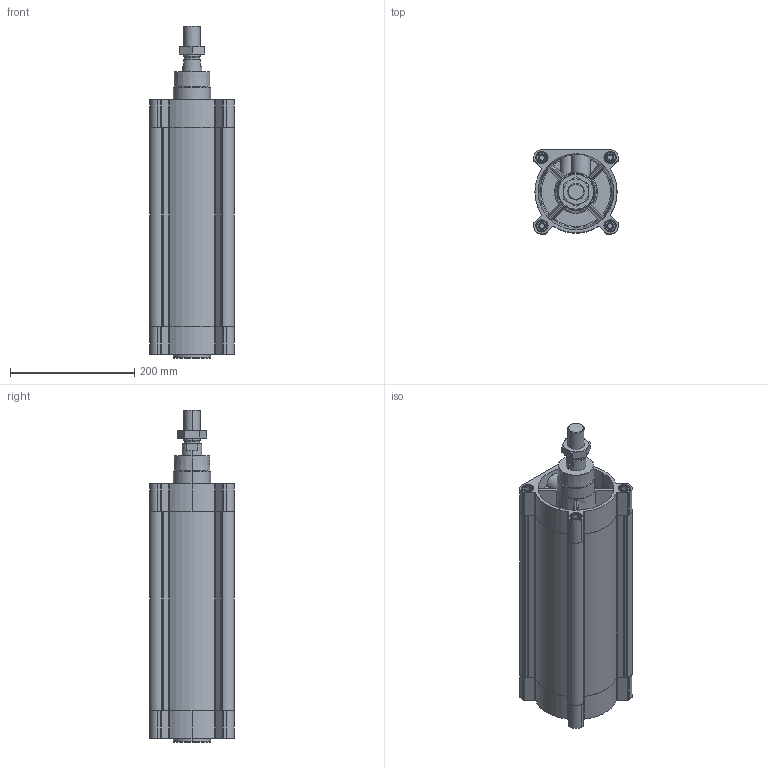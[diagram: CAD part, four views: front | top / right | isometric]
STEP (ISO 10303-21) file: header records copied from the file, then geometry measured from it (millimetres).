
FILE_DESCRIPTION (( 'STEP AP214' ), '1' );
FILE_NAME ('CPME125-250.STEP', '2025-05-19T11:05:44', ( '' ), ( '' ), 'SwSTEP 2.0', 'SolidWorks 2019', '' );
FILE_SCHEMA (( 'AUTOMOTIVE_DESIGN' ));
Length unit declared in the file: millimetre
Products named in the file (1): CPME125-250
Bounding box: 136 x 136 x 535 mm (x, y, z)
Volume: 3525334.9 mm3; surface area: 616394.9 mm2
Topology: 3 solids, 3 shells, 539 faces, 1371 edges, 878 vertices
Faces by surface type: plane 207, cylinder 206, cone 98, torus 28
Entity records: 25388 total; most frequent: CARTESIAN_POINT 6326, DIRECTION 2767, ORIENTED_EDGE 2742, EDGE_CURVE 1371, AXIS2_PLACEMENT_3D 1051, VERTEX_POINT 878, VECTOR 665, LINE 665
